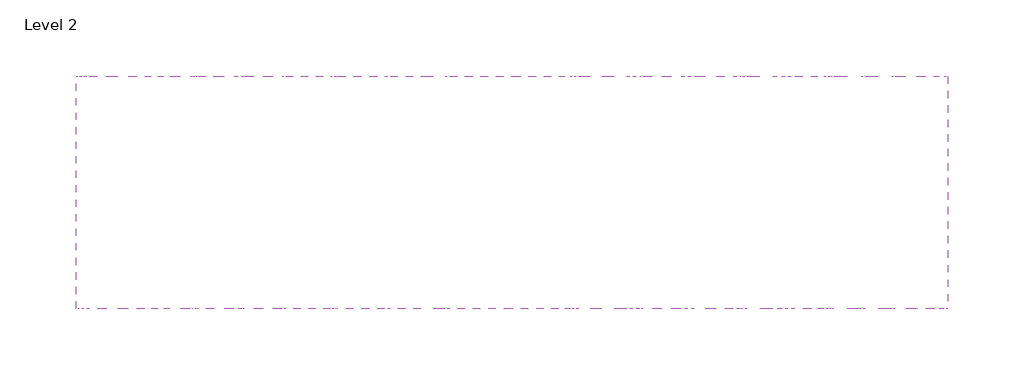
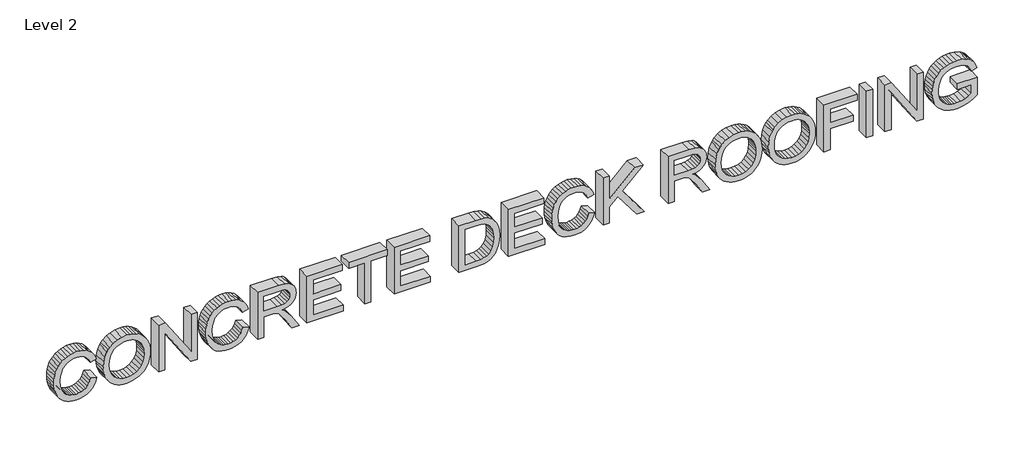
# One storey: 1 proxy.
"""IFC4 building model written with IfcOpenShell, lengths in millimetres."""

from ifc_helpers import new_model, si_unit, frame, origin, place, context, project, spatial, polyline, outline, extrude, element, save

model = new_model("IFC4")

# Units and contexts
model_context = context("Model", 3, world=origin())
ifc_project = project(units=[si_unit("LENGTHUNIT", "METRE", prefix="MILLI")], contexts=[model_context])

# Site, building, storey
site = spatial("IfcSite", under=ifc_project)
building = spatial("IfcBuilding", under=site)
storey = spatial("IfcBuildingStorey", under=building, Name="Level 2", Elevation=3048.0)

# Proxy
placement = place(None, origin())
element("IfcBuildingElementProxy", 1, Name="24\" Arial", ObjectType="24\" Arial", at=placement, inside=storey, context=model_context, shape_type="SweptSolid", body=[
    extrude(outline(polyline([(5087.6663625, -23338.8774651), (5053.284776, -23349.1214194), (5023.4092471, -23363.1478977), (4998.039776, -23380.9569001), (4977.1763625, -23402.5484266), (4960.892276, -23427.3363232), (4949.2607856, -23454.7344362), (4942.2818914, -23484.7427655), (4939.9555933, -23517.3613112), (4941.6636822, -23544.7136309), (4946.787949, -23571.0859747), (4955.3283938, -23596.4783425), (4967.2850164, -23620.8907343), (4982.6944514, -23643.2378497), (5001.5933337, -23662.4343881), (5023.981663, -23678.4803497), (5049.8594394, -23691.3757343), (5078.6542471, -23701.2808184), (5109.7936702, -23708.3558785), (5179.1063625, -23714.0159266), (5235.7068433, -23709.2351093), (5290.6221317, -23694.8926574), (5316.2846798, -23683.5771405), (5339.1996317, -23668.7538593), (5359.3669875, -23650.4228136), (5376.7867471, -23628.5840035), (5390.8269635, -23603.5534026), (5400.8556894, -23575.6469843), (5406.872925, -23544.8647487), (5408.8786702, -23511.2066958), (5407.0698361, -23481.9539554), (5401.6433337, -23455.3022727), (5392.599163, -23431.2516477), (5379.937324, -23409.8020804), (5363.3189466, -23390.843667), (5342.4051606, -23374.2665035), (5317.1959659, -23360.0705901), (5287.6913625, -23348.2559266), (5305.5690548, -23273.2282343), (5345.6106894, -23287.483679), (5380.889824, -23306.3642439), (5411.4064587, -23329.869929), (5437.1605933, -23358.0007343), (5457.6118673, -23390.2254578), (5472.2199202, -23426.0128977), (5480.9847519, -23465.363054), (5483.9063625, -23508.2759266), (5481.6487543, -23546.7972247), (5474.8759298, -23583.6699651), (5463.5878889, -23618.8941477), (5447.7846317, -23652.4697727), (5427.6310139, -23683.3481742), (5403.2918914, -23710.4806862), (5374.7672639, -23733.8673088), (5342.0571317, -23753.508042), (5305.7613865, -23769.0548569), (5266.4799202, -23780.1597247), (5224.2127327, -23786.8226453), (5178.959824, -23789.0436189), (5136.7842231, -23787.0790876), (5095.9824202, -23781.1854939), (5056.5544154, -23771.3628376), (5018.5002087, -23757.6111189), (4983.3401365, -23740.0997727), (4952.5945356, -23718.9982343), (4926.2634058, -23694.3065035), (4904.3467471, -23666.0245804), (4887.1010019, -23633.7082703), (4874.7826125, -23596.9133785), (4867.3915789, -23555.639905), (4864.927901, -23509.8878497), (4868.1838024, -23465.2302535), (4877.9515067, -23424.1628497), (4894.2310139, -23386.6856381), (4917.022324, -23352.7986189), (4946.0140428, -23323.1703737), (4980.894776, -23298.4694843), (5021.6645236, -23278.6959506), (5068.3232856, -23263.8497727), (5087.6663625, -23338.8774651)])), frame((0.0, 8681.5965573, 0.0), z_axis=(0.0, 1.0, 0.0), x_axis=(0.0, 0.0, 1.0)), (0.0, 0.0, 1.0), 152.4),
    extrude(outline(polyline([(5166.5040548, -23188.8220804), (5127.6026726, -23186.6789554), (5089.7362183, -23180.2495804), (5052.9046918, -23169.5339554), (5017.1080933, -23154.5320804), (4983.6881654, -23135.3721766), (4953.986651, -23112.1824651), (4928.00355, -23084.9629458), (4905.7388625, -23053.7136189), (4887.8840668, -23019.3320324), (4875.1306414, -22982.7157343), (4867.4785861, -22943.8647247), (4864.927901, -22902.7790035), (4867.2358817, -22864.4637751), (4874.159824, -22827.4765516), (4885.6997279, -22791.8173328), (4901.8555933, -22757.4861189), (4922.499199, -22725.733066), (4947.502324, -22697.8083304), (4976.8649683, -22673.7119122), (5010.5871317, -22653.4438112), (5047.6888385, -22637.3841117), (5087.1901125, -22625.9128977), (5129.0909539, -22619.0301694), (5173.3913625, -22616.7359266), (5217.114776, -22618.9156862), (5258.4569394, -22625.4549651), (5297.4178529, -22636.3537631), (5333.9975164, -22651.6120804), (5367.4357615, -22671.0284266), (5396.9724202, -22694.4013112), (5422.6074923, -22721.7307343), (5444.3409779, -22753.0166958), (5461.6508337, -22787.2975372), (5474.0150164, -22823.6115997), (5481.433526, -22861.9588833), (5483.9063625, -22902.3393881), (5478.6401365, -22962.667441), (5462.8414587, -23017.1889074), (5436.5103289, -23065.9037872), (5399.6467471, -23108.8120804), (5377.5721017, -23127.5644242), (5353.4779731, -23143.8164554), (5299.2312664, -23168.8195804), (5236.9066269, -23183.8214554), (5166.5040548, -23188.8220804)]), holes=[polyline([(5165.7713625, -23113.7943881), (5226.5894034, -23109.8836429), (5278.0381414, -23098.1514074), (5320.1175764, -23078.5976814), (5352.8277087, -23051.2224651), (5377.3500043, -23018.4253256), (5394.8659298, -22982.6058304), (5405.3754851, -22943.7639795), (5408.8786702, -22901.8997727), (5407.0606774, -22872.1020925), (5401.606699, -22843.8155901), (5392.5167351, -22817.0402655), (5379.7907856, -22791.7761189), (5363.758562, -22768.7375251), (5344.749776, -22748.6388593), (5322.7644274, -22731.4801213), (5297.8025164, -22717.2613112), (5270.2258096, -22706.1060708), (5240.396074, -22698.138042), (5208.3133096, -22693.3572247), (5173.9775164, -22691.7636189), (5121.122925, -22695.4866117), (5074.661074, -22706.6555901), (5034.5919635, -22725.270554), (5000.9155933, -22751.3315035), (4974.2455933, -22783.162405), (4955.1955933, -22819.0872247), (4943.7655933, -22859.1059626), (4939.9555933, -22903.2186189), (4943.7289587, -22946.5894242), (4955.0490548, -22986.1410708), (4973.9158817, -23021.8735588), (5000.3294394, -23053.7868881), (5033.3097519, -23080.0401694), (5071.8768433, -23098.7925131), (5116.0307135, -23110.0439194), (5165.7713625, -23113.7943881)])]), frame((0.0, 8681.5965573, 0.0), z_axis=(0.0, 1.0, 0.0), x_axis=(0.0, 0.0, 1.0)), (0.0, 0.0, 1.0), 152.4),
    extrude(outline(polyline([(4874.3063625, -22513.5728497), (4874.3063625, -22438.5451574), (5349.9702087, -22438.5451574), (4874.3063625, -22124.9528497), (4874.3063625, -22044.6497727), (5474.527901, -22044.6497727), (5474.527901, -22119.6774651), (4999.0105933, -22119.6774651), (5474.527901, -22433.2697727), (5474.527901, -22513.5728497), (4874.3063625, -22513.5728497)])), frame((0.0, 8681.5965573, 0.0), z_axis=(0.0, 1.0, 0.0), x_axis=(0.0, 0.0, 1.0)), (0.0, 0.0, 1.0), 152.4),
    extrude(outline(polyline([(5087.6663625, -21491.320542), (5053.284776, -21501.5644963), (5023.4092471, -21515.5909747), (4998.039776, -21533.3999771), (4977.1763625, -21554.9915035), (4960.892276, -21579.7794001), (4949.2607856, -21607.1775131), (4942.2818914, -21637.1858425), (4939.9555933, -21669.8043881), (4941.6636822, -21697.1567078), (4946.787949, -21723.5290516), (4955.3283938, -21748.9214194), (4967.2850164, -21773.3338112), (4982.6944514, -21795.6809266), (5001.5933337, -21814.8774651), (5023.981663, -21830.9234266), (5049.8594394, -21843.8188112), (5078.6542471, -21853.7238953), (5109.7936702, -21860.7989554), (5179.1063625, -21866.4590035), (5235.7068433, -21861.6781862), (5290.6221317, -21847.3357343), (5316.2846798, -21836.0202175), (5339.1996317, -21821.1969362), (5359.3669875, -21802.8658905), (5376.7867471, -21781.0270804), (5390.8269635, -21755.9964795), (5400.8556894, -21728.0900612), (5406.872925, -21697.3078256), (5408.8786702, -21663.6497727), (5407.0698361, -21634.3970324), (5401.6433337, -21607.7453497), (5392.599163, -21583.6947247), (5379.937324, -21562.2451574), (5363.3189466, -21543.2867439), (5342.4051606, -21526.7095804), (5317.1959659, -21512.513667), (5287.6913625, -21500.6990035), (5305.5690548, -21425.6713112), (5345.6106894, -21439.9267559), (5380.889824, -21458.8073208), (5411.4064587, -21482.3130059), (5437.1605933, -21510.4438112), (5457.6118673, -21542.6685348), (5472.2199202, -21578.4559747), (5480.9847519, -21617.8061309), (5483.9063625, -21660.7190035), (5481.6487543, -21699.2403016), (5474.8759298, -21736.113042), (5463.5878889, -21771.3372247), (5447.7846317, -21804.9128497), (5427.6310139, -21835.7912511), (5403.2918914, -21862.9237631), (5374.7672639, -21886.3103857), (5342.0571317, -21905.9511189), (5305.7613865, -21921.4979338), (5266.4799202, -21932.6028016), (5224.2127327, -21939.2657223), (5178.959824, -21941.4866958), (5136.7842231, -21939.5221646), (5095.9824202, -21933.6285708), (5056.5544154, -21923.8059146), (5018.5002087, -21910.0541958), (4983.3401365, -21892.5428497), (4952.5945356, -21871.4413112), (4926.2634058, -21846.7495804), (4904.3467471, -21818.4676574), (4887.1010019, -21786.1513473), (4874.7826125, -21749.3564554), (4867.3915789, -21708.0829819), (4864.927901, -21662.3309266), (4868.1838024, -21617.6733304), (4877.9515067, -21576.6059266), (4894.2310139, -21539.1287151), (4917.022324, -21505.2416958), (4946.0140428, -21475.6134506), (4980.894776, -21450.9125612), (5021.6645236, -21431.1390276), (5068.3232856, -21416.2928497), (5087.6663625, -21491.320542)])), frame((0.0, 8681.5965573, 0.0), z_axis=(0.0, 1.0, 0.0), x_axis=(0.0, 0.0, 1.0)), (0.0, 0.0, 1.0), 152.4),
    extrude(outline(polyline([(4874.3063625, -21313.1297727), (4874.3063625, -21238.1020804), (5136.9032856, -21238.1020804), (5136.9032856, -21147.5413112), (5134.2655933, -21104.0193881), (5119.9780933, -21068.3372727), (5105.0861221, -21049.6719362), (5081.0721317, -21028.6986189), (4998.7175164, -20972.2813112), (4874.3063625, -20894.1763112), (4874.3063625, -20806.9859266), (5036.9640548, -20907.0716958), (5077.7383817, -20937.1487151), (5114.189824, -20967.8851574), (5130.1258817, -20985.7994843), (5146.2817471, -21010.5278497), (5154.2223, -20970.8021886), (5166.1743433, -20936.6175131), (5182.1378769, -20907.9738232), (5202.112901, -20884.8711189), (5225.3575644, -20867.0804338), (5251.1300164, -20854.3728016), (5279.4302567, -20846.7482223), (5310.2582856, -20844.2066958), (5334.5607736, -20845.7407703), (5357.791699, -20850.3429939), (5379.951062, -20858.0133665), (5401.0388625, -20868.7518881), (5420.0339106, -20882.0594122), (5435.9150164, -20897.436792), (5448.6821798, -20914.8840276), (5458.335401, -20934.4011189), (5470.479776, -20984.9752054), (5474.527901, -21054.4893881), (5474.527901, -21313.1297727), (4874.3063625, -21313.1297727)]), holes=[polyline([(5211.9309779, -21238.1020804), (5399.5002087, -21238.1020804), (5399.5002087, -21051.265542), (5397.8791269, -21019.2789434), (5393.0158817, -20991.8991477), (5384.9104731, -20969.126155), (5373.562901, -20950.9599651), (5359.7058577, -20937.0800251), (5344.0720356, -20927.1657824), (5326.6614346, -20921.2172367), (5307.4740548, -20919.2343881), (5280.9689106, -20923.392417), (5256.5519394, -20935.8665035), (5236.3662664, -20956.3452535), (5222.5550164, -20984.5172727), (5214.5869875, -21021.9395324), (5211.9309779, -21070.1690035), (5211.9309779, -21238.1020804)])]), frame((0.0, 8681.5965573, 0.0), z_axis=(0.0, 1.0, 0.0), x_axis=(0.0, 0.0, 1.0)), (0.0, 0.0, 1.0), 152.4),
    extrude(outline(polyline([(4874.3063625, -20712.9082343), (4874.3063625, -20272.120542), (4949.3340548, -20272.120542), (4949.3340548, -20637.880542), (5146.2817471, -20637.880542), (5146.2817471, -20300.2559266), (5221.3094394, -20300.2559266), (5221.3094394, -20637.880542), (5399.5002087, -20637.880542), (5399.5002087, -20281.4990035), (5474.527901, -20281.4990035), (5474.527901, -20712.9082343), (4874.3063625, -20712.9082343)])), frame((0.0, 8681.5965573, 0.0), z_axis=(0.0, 1.0, 0.0), x_axis=(0.0, 0.0, 1.0)), (0.0, 0.0, 1.0), 152.4),
    extrude(outline(polyline([(4874.3063625, -20009.5236189), (4874.3063625, -19934.4959266), (5399.5002087, -19934.4959266), (5399.5002087, -19737.5482343), (5474.527901, -19737.5482343), (5474.527901, -20206.4713112), (5399.5002087, -20206.4713112), (5399.5002087, -20009.5236189), (4874.3063625, -20009.5236189)])), frame((0.0, 8681.5965573, 0.0), z_axis=(0.0, 1.0, 0.0), x_axis=(0.0, 0.0, 1.0)), (0.0, 0.0, 1.0), 152.4),
    extrude(outline(polyline([(4874.3063625, -19653.1420804), (4874.3063625, -19212.3543881), (4949.3340548, -19212.3543881), (4949.3340548, -19578.1143881), (5146.2817471, -19578.1143881), (5146.2817471, -19240.4897727), (5221.3094394, -19240.4897727), (5221.3094394, -19578.1143881), (5399.5002087, -19578.1143881), (5399.5002087, -19221.7328497), (5474.527901, -19221.7328497), (5474.527901, -19653.1420804), (4874.3063625, -19653.1420804)])), frame((0.0, 8681.5965573, 0.0), z_axis=(0.0, 1.0, 0.0), x_axis=(0.0, 0.0, 1.0)), (0.0, 0.0, 1.0), 152.4),
    extrude(outline(polyline([(4874.3063625, -18865.3513112), (4874.3063625, -18648.3278497), (4876.8707856, -18596.9478016), (4884.5640548, -18551.8322727), (4897.2213144, -18512.9079939), (4914.6777087, -18480.1016958), (4938.215449, -18451.5266958), (4969.1167471, -18425.2963112), (5008.2608337, -18402.5095804), (5056.5269394, -18384.265542), (5113.2190067, -18372.2860227), (5177.6409779, -18368.2928497), (5253.4746317, -18374.1910227), (5288.0393914, -18381.5637391), (5320.3694394, -18391.885542), (5350.1900164, -18405.1747487), (5377.2263625, -18421.4496766), (5401.4784779, -18440.7103256), (5422.9463625, -18462.9566958), (5449.2133817, -18503.328042), (5465.8821317, -18551.1728497), (5472.3664587, -18596.4165997), (5474.527901, -18658.2924651), (5474.527901, -18865.3513112), (4874.3063625, -18865.3513112)]), holes=[polyline([(4949.3340548, -18790.3236189), (5399.5002087, -18790.3236189), (5399.5002087, -18659.6113112), (5396.4961702, -18596.3799651), (5387.4840548, -18553.2243881), (5377.0065548, -18531.1566117), (5362.4259779, -18510.8198208), (5343.742324, -18492.2140155), (5320.9555933, -18475.3391958), (5293.4429971, -18461.3310348), (5260.5817471, -18451.3252054), (5222.3718433, -18445.3217078), (5178.8132856, -18443.320542), (5117.102276, -18447.4053016), (5065.3192471, -18459.6595804), (5023.281026, -18479.2407824), (4990.8044394, -18505.3063112), (4973.2564587, -18529.5584266), (4960.177901, -18560.9909266), (4952.0450164, -18602.6444843), (4949.3340548, -18657.5597727), (4949.3340548, -18790.3236189)])]), frame((0.0, 8681.5965573, 0.0), z_axis=(0.0, 1.0, 0.0), x_axis=(0.0, 0.0, 1.0)), (0.0, 0.0, 1.0), 152.4),
    extrude(outline(polyline([(4874.3063625, -18265.1297727), (4874.3063625, -17824.3420804), (4949.3340548, -17824.3420804), (4949.3340548, -18190.1020804), (5146.2817471, -18190.1020804), (5146.2817471, -17852.4774651), (5221.3094394, -17852.4774651), (5221.3094394, -18190.1020804), (5399.5002087, -18190.1020804), (5399.5002087, -17833.720542), (5474.527901, -17833.720542), (5474.527901, -18265.1297727), (4874.3063625, -18265.1297727)])), frame((0.0, 8681.5965573, 0.0), z_axis=(0.0, 1.0, 0.0), x_axis=(0.0, 0.0, 1.0)), (0.0, 0.0, 1.0), 152.4),
    extrude(outline(polyline([(5087.6663625, -17289.7697727), (5053.284776, -17300.0137271), (5023.4092471, -17314.0402054), (4998.039776, -17331.8492078), (4977.1763625, -17353.4407343), (4960.892276, -17378.2286309), (4949.2607856, -17405.6267439), (4942.2818914, -17435.6350732), (4939.9555933, -17468.2536189), (4941.6636822, -17495.6059386), (4946.787949, -17521.9782824), (4955.3283938, -17547.3706501), (4967.2850164, -17571.783042), (4982.6944514, -17594.1301574), (5001.5933337, -17613.3266958), (5023.981663, -17629.3726574), (5049.8594394, -17642.268042), (5078.6542471, -17652.1731261), (5109.7936702, -17659.2481862), (5179.1063625, -17664.9082343), (5235.7068433, -17660.127417), (5290.6221317, -17645.7849651), (5316.2846798, -17634.4694482), (5339.1996317, -17619.646167), (5359.3669875, -17601.3151213), (5376.7867471, -17579.4763112), (5390.8269635, -17554.4457102), (5400.8556894, -17526.539292), (5406.872925, -17495.7570564), (5408.8786702, -17462.0990035), (5407.0698361, -17432.8462631), (5401.6433337, -17406.1945804), (5392.599163, -17382.1439554), (5379.937324, -17360.6943881), (5363.3189466, -17341.7359747), (5342.4051606, -17325.1588112), (5317.1959659, -17310.9628977), (5287.6913625, -17299.1482343), (5305.5690548, -17224.120542), (5345.6106894, -17238.3759867), (5380.889824, -17257.2565516), (5411.4064587, -17280.7622367), (5437.1605933, -17308.893042), (5457.6118673, -17341.1177655), (5472.2199202, -17376.9052054), (5480.9847519, -17416.2553617), (5483.9063625, -17459.1682343), (5481.6487543, -17497.6895324), (5474.8759298, -17534.5622727), (5463.5878889, -17569.7864554), (5447.7846317, -17603.3620804), (5427.6310139, -17634.2404819), (5403.2918914, -17661.3729939), (5374.7672639, -17684.7596165), (5342.0571317, -17704.4003497), (5305.7613865, -17719.9471646), (5266.4799202, -17731.0520324), (5224.2127327, -17737.714953), (5178.959824, -17739.9359266), (5136.7842231, -17737.9713953), (5095.9824202, -17732.0778016), (5056.5544154, -17722.2551453), (5018.5002087, -17708.5034266), (4983.3401365, -17690.9920804), (4952.5945356, -17669.890542), (4926.2634058, -17645.1988112), (4904.3467471, -17616.9168881), (4887.1010019, -17584.600578), (4874.7826125, -17547.8056862), (4867.3915789, -17506.5322126), (4864.927901, -17460.7801574), (4868.1838024, -17416.1225612), (4877.9515067, -17375.0551574), (4894.2310139, -17337.5779458), (4917.022324, -17303.6909266), (4946.0140428, -17274.0626814), (4980.894776, -17249.361792), (5021.6645236, -17229.5882583), (5068.3232856, -17214.7420804), (5087.6663625, -17289.7697727)])), frame((0.0, 8681.5965573, 0.0), z_axis=(0.0, 1.0, 0.0), x_axis=(0.0, 0.0, 1.0)), (0.0, 0.0, 1.0), 152.4),
    extrude(outline(polyline([(4874.3063625, -17111.5790035), (4874.3063625, -17036.5513112), (5080.6325164, -17036.5513112), (5177.054824, -16935.4397727), (4874.3063625, -16706.2536189), (4874.3063625, -16614.520542), (5227.7571317, -16882.2463112), (5474.527901, -16623.8990035), (5474.527901, -16728.820542), (5180.7182856, -17036.5513112), (5474.527901, -17036.5513112), (5474.527901, -17111.5790035), (4874.3063625, -17111.5790035)])), frame((0.0, 8681.5965573, 0.0), z_axis=(0.0, 1.0, 0.0), x_axis=(0.0, 0.0, 1.0)), (0.0, 0.0, 1.0), 152.4),
    extrude(outline(polyline([(4874.3063625, -16323.7882343), (4874.3063625, -16248.760542), (5136.9032856, -16248.760542), (5136.9032856, -16158.1997727), (5134.2655933, -16114.6778497), (5119.9780933, -16078.9957343), (5105.0861221, -16060.3303977), (5081.0721317, -16039.3570804), (4998.7175164, -15982.9397727), (4874.3063625, -15904.8347727), (4874.3063625, -15817.6443881), (5036.9640548, -15917.7301574), (5077.7383817, -15947.8071766), (5114.189824, -15978.5436189), (5130.1258817, -15996.4579458), (5146.2817471, -16021.1863112), (5154.2223, -15981.4606501), (5166.1743433, -15947.2759747), (5182.1378769, -15918.6322848), (5202.112901, -15895.5295804), (5225.3575644, -15877.7388953), (5251.1300164, -15865.0312631), (5279.4302567, -15857.4066838), (5310.2582856, -15854.8651574), (5334.5607736, -15856.3992319), (5357.791699, -15861.0014554), (5379.951062, -15868.671828), (5401.0388625, -15879.4103497), (5420.0339106, -15892.7178737), (5435.9150164, -15908.0952535), (5448.6821798, -15925.5424891), (5458.335401, -15945.0595804), (5470.479776, -15995.633667), (5474.527901, -16065.1478497), (5474.527901, -16323.7882343), (4874.3063625, -16323.7882343)]), holes=[polyline([(5211.9309779, -16248.760542), (5399.5002087, -16248.760542), (5399.5002087, -16061.9240035), (5397.8791269, -16029.937405), (5393.0158817, -16002.5576093), (5384.9104731, -15979.7846165), (5373.562901, -15961.6184266), (5359.7058577, -15947.7384867), (5344.0720356, -15937.8242439), (5326.6614346, -15931.8756982), (5307.4740548, -15929.8928497), (5280.9689106, -15934.0508785), (5256.5519394, -15946.5249651), (5236.3662664, -15967.0037151), (5222.5550164, -15995.1757343), (5214.5869875, -16032.5979939), (5211.9309779, -16080.8274651), (5211.9309779, -16248.760542)])]), frame((0.0, 8681.5965573, 0.0), z_axis=(0.0, 1.0, 0.0), x_axis=(0.0, 0.0, 1.0)), (0.0, 0.0, 1.0), 152.4),
    extrude(outline(polyline([(5166.5040548, -15751.7020804), (5127.6026726, -15749.5589554), (5089.7362183, -15743.1295804), (5052.9046918, -15732.4139554), (5017.1080933, -15717.4120804), (4983.6881654, -15698.2521766), (4953.986651, -15675.0624651), (4928.00355, -15647.8429458), (4905.7388625, -15616.5936189), (4887.8840668, -15582.2120324), (4875.1306414, -15545.5957343), (4867.4785861, -15506.7447247), (4864.927901, -15465.6590035), (4867.2358817, -15427.3437751), (4874.159824, -15390.3565516), (4885.6997279, -15354.6973328), (4901.8555933, -15320.3661189), (4922.499199, -15288.613066), (4947.502324, -15260.6883304), (4976.8649683, -15236.5919122), (5010.5871317, -15216.3238112), (5047.6888385, -15200.2641117), (5087.1901125, -15188.7928977), (5129.0909539, -15181.9101694), (5173.3913625, -15179.6159266), (5217.114776, -15181.7956862), (5258.4569394, -15188.3349651), (5297.4178529, -15199.2337631), (5333.9975164, -15214.4920804), (5367.4357615, -15233.9084266), (5396.9724202, -15257.2813112), (5422.6074923, -15284.6107343), (5444.3409779, -15315.8966958), (5461.6508337, -15350.1775372), (5474.0150164, -15386.4915997), (5481.433526, -15424.8388833), (5483.9063625, -15465.2193881), (5478.6401365, -15525.547441), (5462.8414587, -15580.0689074), (5436.5103289, -15628.7837872), (5399.6467471, -15671.6920804), (5377.5721017, -15690.4444242), (5353.4779731, -15706.6964554), (5299.2312664, -15731.6995804), (5236.9066269, -15746.7014554), (5166.5040548, -15751.7020804)]), holes=[polyline([(5165.7713625, -15676.6743881), (5226.5894034, -15672.7636429), (5278.0381414, -15661.0314074), (5320.1175764, -15641.4776814), (5352.8277087, -15614.1024651), (5377.3500043, -15581.3053256), (5394.8659298, -15545.4858304), (5405.3754851, -15506.6439795), (5408.8786702, -15464.7797727), (5407.0606774, -15434.9820925), (5401.606699, -15406.6955901), (5392.5167351, -15379.9202655), (5379.7907856, -15354.6561189), (5363.758562, -15331.6175251), (5344.749776, -15311.5188593), (5322.7644274, -15294.3601213), (5297.8025164, -15280.1413112), (5270.2258096, -15268.9860708), (5240.396074, -15261.018042), (5208.3133096, -15256.2372247), (5173.9775164, -15254.6436189), (5121.122925, -15258.3666117), (5074.661074, -15269.5355901), (5034.5919635, -15288.150554), (5000.9155933, -15314.2115035), (4974.2455933, -15346.042405), (4955.1955933, -15381.9672247), (4943.7655933, -15421.9859626), (4939.9555933, -15466.0986189), (4943.7289587, -15509.4694242), (4955.0490548, -15549.0210708), (4973.9158817, -15584.7535588), (5000.3294394, -15616.6668881), (5033.3097519, -15642.9201694), (5071.8768433, -15661.6725131), (5116.0307135, -15672.9239194), (5165.7713625, -15676.6743881)])]), frame((0.0, 8681.5965573, 0.0), z_axis=(0.0, 1.0, 0.0), x_axis=(0.0, 0.0, 1.0)), (0.0, 0.0, 1.0), 152.4),
    extrude(outline(polyline([(5166.5040548, -15104.5882343), (5127.6026726, -15102.4451093), (5089.7362183, -15096.0157343), (5052.9046918, -15085.3001093), (5017.1080933, -15070.2982343), (4983.6881654, -15051.1383304), (4953.986651, -15027.9486189), (4928.00355, -15000.7290997), (4905.7388625, -14969.4797727), (4887.8840668, -14935.0981862), (4875.1306414, -14898.4818881), (4867.4785861, -14859.6308785), (4864.927901, -14818.5451574), (4867.2358817, -14780.229929), (4874.159824, -14743.2427054), (4885.6997279, -14707.5834867), (4901.8555933, -14673.2522727), (4922.499199, -14641.4992199), (4947.502324, -14613.5744843), (4976.8649683, -14589.478066), (5010.5871317, -14569.2099651), (5047.6888385, -14553.1502655), (5087.1901125, -14541.6790516), (5129.0909539, -14534.7963232), (5173.3913625, -14532.5020804), (5217.114776, -14534.6818401), (5258.4569394, -14541.2211189), (5297.4178529, -14552.119917), (5333.9975164, -14567.3782343), (5367.4357615, -14586.7945804), (5396.9724202, -14610.1674651), (5422.6074923, -14637.4968881), (5444.3409779, -14668.7828497), (5461.6508337, -14703.063691), (5474.0150164, -14739.3777535), (5481.433526, -14777.7250372), (5483.9063625, -14818.105542), (5478.6401365, -14878.4335949), (5462.8414587, -14932.9550612), (5436.5103289, -14981.669941), (5399.6467471, -15024.5782343), (5377.5721017, -15043.330578), (5353.4779731, -15059.5826093), (5299.2312664, -15084.5857343), (5236.9066269, -15099.5876093), (5166.5040548, -15104.5882343)]), holes=[polyline([(5165.7713625, -15029.560542), (5226.5894034, -15025.6497968), (5278.0381414, -15013.9175612), (5320.1175764, -14994.3638352), (5352.8277087, -14966.9886189), (5377.3500043, -14934.1914795), (5394.8659298, -14898.3719843), (5405.3754851, -14859.5301333), (5408.8786702, -14817.6659266), (5407.0606774, -14787.8682463), (5401.606699, -14759.5817439), (5392.5167351, -14732.8064194), (5379.7907856, -14707.5422727), (5363.758562, -14684.503679), (5344.749776, -14664.4050131), (5322.7644274, -14647.2462751), (5297.8025164, -14633.0274651), (5270.2258096, -14621.8722247), (5240.396074, -14613.9041958), (5208.3133096, -14609.1233785), (5173.9775164, -14607.5297727), (5121.122925, -14611.2527655), (5074.661074, -14622.4217439), (5034.5919635, -14641.0367078), (5000.9155933, -14667.0976574), (4974.2455933, -14698.9285588), (4955.1955933, -14734.8533785), (4943.7655933, -14774.8721165), (4939.9555933, -14818.9847727), (4943.7289587, -14862.355578), (4955.0490548, -14901.9072247), (4973.9158817, -14937.6397126), (5000.3294394, -14969.553042), (5033.3097519, -14995.8063232), (5071.8768433, -15014.558667), (5116.0307135, -15025.8100732), (5165.7713625, -15029.560542)])]), frame((0.0, 8681.5965573, 0.0), z_axis=(0.0, 1.0, 0.0), x_axis=(0.0, 0.0, 1.0)), (0.0, 0.0, 1.0), 152.4),
    extrude(outline(polyline([(4874.3063625, -14429.3390035), (4874.3063625, -14354.3113112), (5146.2817471, -14354.3113112), (5146.2817471, -14072.9574651), (5221.3094394, -14072.9574651), (5221.3094394, -14354.3113112), (5399.5002087, -14354.3113112), (5399.5002087, -14026.0651574), (5474.527901, -14026.0651574), (5474.527901, -14429.3390035), (4874.3063625, -14429.3390035)])), frame((0.0, 8681.5965573, 0.0), z_axis=(0.0, 1.0, 0.0), x_axis=(0.0, 0.0, 1.0)), (0.0, 0.0, 1.0), 152.4),
    extrude(outline(polyline([(-13838.4959266, 8681.5965573), (-13913.5236189, 8681.5965573), (-13913.5236189, 8833.9965573), (-13838.4959266, 8833.9965573), (-13838.4959266, 8681.5965573)])), frame((0.0, 0.0, 4874.3063625), z_axis=(0.0, 0.0, 1.0), x_axis=(1.0, 0.0, 0.0)), (0.0, 0.0, 1.0), 600.2215385),
    extrude(outline(polyline([(4874.3063625, -13688.440542), (4874.3063625, -13613.4128497), (5349.9702087, -13613.4128497), (4874.3063625, -13299.820542), (4874.3063625, -13219.5174651), (5474.527901, -13219.5174651), (5474.527901, -13294.5451574), (4999.0105933, -13294.5451574), (5474.527901, -13608.1374651), (5474.527901, -13688.440542), (4874.3063625, -13688.440542)])), frame((0.0, 8681.5965573, 0.0), z_axis=(0.0, 1.0, 0.0), x_axis=(0.0, 0.0, 1.0)), (0.0, 0.0, 1.0), 152.4),
    extrude(outline(polyline([(5108.767901, -12806.8651574), (5108.767901, -12638.0528497), (5000.3294394, -12638.0528497), (4979.1363144, -12670.0165516), (4959.225401, -12714.033042), (4944.7730452, -12764.7170324), (4939.9555933, -12816.6832343), (4941.5537784, -12846.5267078), (4946.3483337, -12875.5367439), (4954.3392591, -12903.7133425), (4965.5265548, -12931.0565035), (4980.0063865, -12956.3801814), (4997.8749202, -12978.4983304), (5019.1321558, -12997.4109506), (5043.7780933, -13013.118042), (5071.7074082, -13025.459328), (5102.814776, -13034.2745324), (5137.1001966, -13039.563655), (5174.5636702, -13041.3266958), (5235.7434779, -13035.4651574), (5292.3805933, -13017.880542), (5322.5858337, -13001.3400131), (5350.1900164, -12979.2676574), (5373.9658817, -12950.5094843), (5392.6861702, -12913.9115035), (5404.8305452, -12869.6385708), (5408.8786702, -12817.855542), (5405.1236221, -12773.6192439), (5393.8584779, -12733.5226574), (5376.3471317, -12699.8920804), (5353.8534779, -12675.0538112), (5324.0145837, -12656.2785708), (5284.4675164, -12640.8370804), (5303.9571317, -12571.6709266), (5359.4036221, -12590.7758785), (5403.2369394, -12617.0245804), (5421.2062183, -12633.3498809), (5437.087324, -12652.5052054), (5450.8802567, -12674.490554), (5462.5850164, -12699.3059266), (5478.576026, -12754.8806381), (5483.9063625, -12816.6832343), (5481.6075404, -12860.0769362), (5474.711074, -12900.8695804), (5463.2169635, -12939.061167), (5447.1252087, -12974.6516958), (5426.3030091, -13006.94053), (5400.6175644, -13035.2270324), (5370.0688745, -13059.511203), (5334.6569394, -13079.793042), (5296.0761101, -13095.7886309), (5256.0207375, -13107.2140516), (5214.4908216, -13114.069304), (5171.4863625, -13116.3543881), (5128.4864827, -13114.0601453), (5087.5564587, -13107.177417), (5048.6962904, -13095.706203), (5011.9059779, -13079.6465035), (4978.261663, -13059.0853256), (4948.8394875, -13034.1096766), (4923.6394514, -13004.7195564), (4902.6615548, -12970.9149651), (4886.1530813, -12933.8911069), (4874.3613144, -12894.8431862), (4867.2862543, -12853.771203), (4864.927901, -12810.6751574), (4870.8627087, -12746.2531862), (4888.6671317, -12683.4065035), (4918.2312664, -12622.2816477), (4959.4452087, -12563.0251574), (5183.7955933, -12563.0251574), (5183.7955933, -12806.8651574), (5108.767901, -12806.8651574)])), frame((0.0, 8681.5965573, 0.0), z_axis=(0.0, 1.0, 0.0), x_axis=(0.0, 0.0, 1.0)), (0.0, 0.0, 1.0), 152.4),
])

save(model, "model.ifc")
